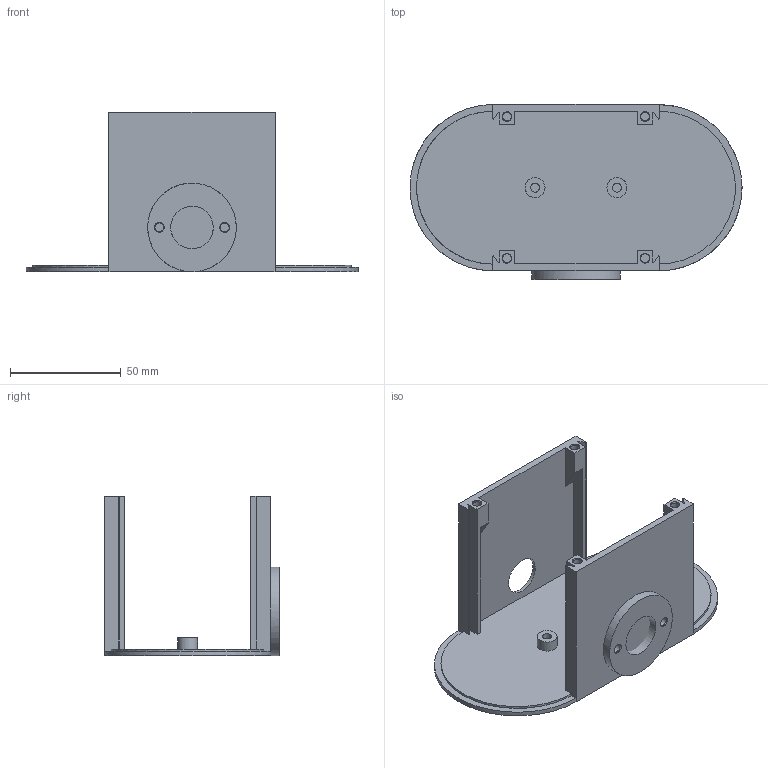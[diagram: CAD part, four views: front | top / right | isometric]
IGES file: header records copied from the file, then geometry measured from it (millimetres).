
Global section: file name: base v29; native system: unknown; preprocessor: unknown; author: unknown; organization: unknown; date: 20200329.202858; units: millimetre
Bounding box: 149.99 x 79 x 72 mm (x, y, z)
Volume: 69471.6 mm3; surface area: 50916 mm2
Topology: 1 solids, 1 shells, 83 faces, 200 edges, 129 vertices
Faces by surface type: bspline 83
